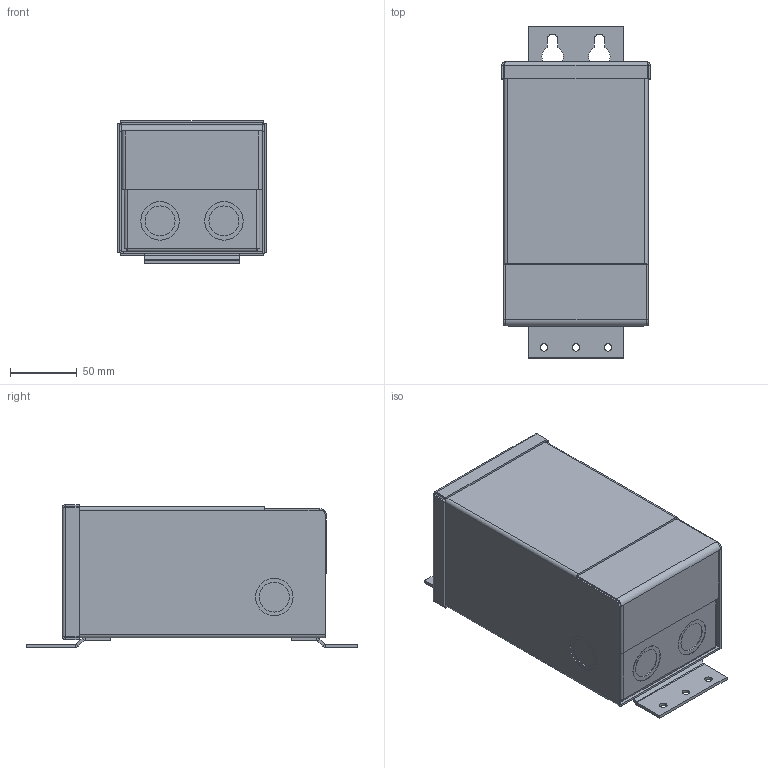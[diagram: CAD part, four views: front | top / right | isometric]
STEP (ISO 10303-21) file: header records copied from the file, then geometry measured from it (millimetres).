
FILE_DESCRIPTION (( 'STEP AP203' ), '1' );
FILE_NAME ('MT-BBT-220V-230V-41.67A.STEP', '2026-05-15T15:10:43', ( '' ), ( '' ), 'SwSTEP 2.0', 'SolidWorks 2020', '' );
FILE_SCHEMA (( 'CONFIG_CONTROL_DESIGN' ));
Length unit declared in the file: inch
Products named in the file (6): MT-BBT-220V-230V-41.67A-Part#2; MT-BBT-220V-230V-41.67A-Part#5; MT-BBT-220V-230V-41.67A; MT-BBT-220V-230V-41.67A-Part#1; MT-BBT-220V-230V-41.67A-Part#4; MT-BBT-220V-230V-41.67A-Part#3
Assembly tree (5 placements, depth 2):
  MT-BBT-220V-230V-41.67A
    MT-BBT-220V-230V-41.67A-Part#1
    MT-BBT-220V-230V-41.67A-Part#2
    MT-BBT-220V-230V-41.67A-Part#3
    MT-BBT-220V-230V-41.67A-Part#4
    MT-BBT-220V-230V-41.67A-Part#5
Bounding box: 111 x 248.05 x 106.68 mm (x, y, z)
Volume: 182266.7 mm3; surface area: 240146.2 mm2
Topology: 6 solids, 6 shells, 218 faces, 464 edges, 266 vertices
Faces by surface type: plane 140, cylinder 66, bspline 12
Entity records: 6892 total; most frequent: CARTESIAN_POINT 1592, DIRECTION 978, ORIENTED_EDGE 928, EDGE_CURVE 464, LINE 330, VECTOR 330, AXIS2_PLACEMENT_3D 324, VERTEX_POINT 266
